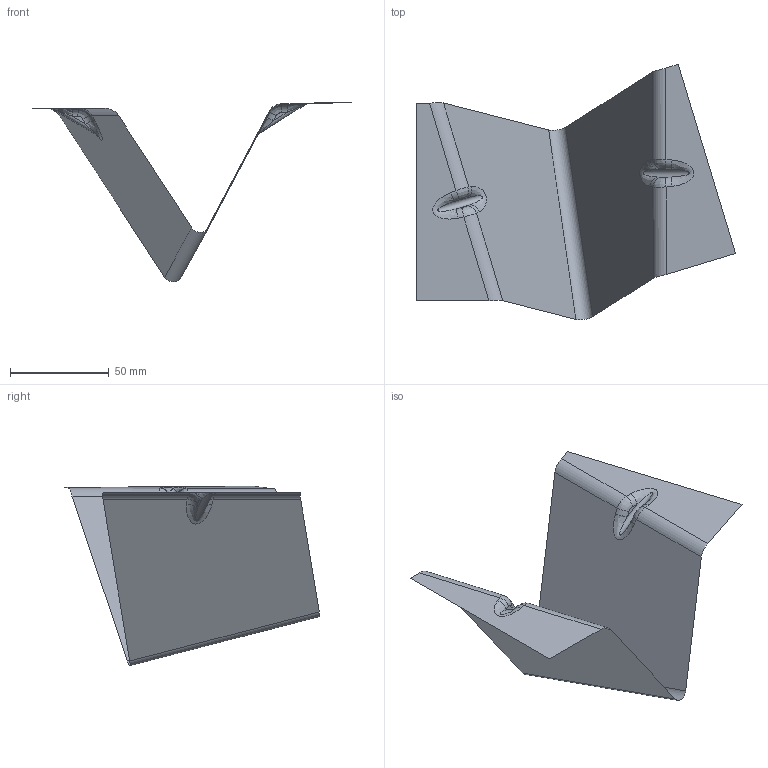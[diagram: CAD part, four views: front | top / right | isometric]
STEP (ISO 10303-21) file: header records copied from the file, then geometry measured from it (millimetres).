
FILE_DESCRIPTION(('CATIA V5 STEP Exchange'),'2;1');
FILE_NAME('C:\_Andres\UNIVERSIDAD\IQS\ASIGNATURAS\DAO\EXF\EXF-16172c\2inicio\Marinetto_Rohr_Ej03_v18.stp','2017-03-05T19:32:19+00:00',('none'),('none'),'CATIA Version 5-6 Release 2014 SP1 HF18','CATIA V5 STEP AP203','none');
FILE_SCHEMA(('CONFIG_CONTROL_DESIGN'));
Length unit declared in the file: millimetre
Products named in the file (1): Marinetto_Rohr_Ej03_v18
Bounding box: 161.48 x 129.12 x 90.76 mm (x, y, z)
Surface area: 23926.2 mm2 (no closed solid volume)
Topology: 0 solids, 1 shells, 31 faces, 78 edges, 48 vertices
Faces by surface type: cylinder 15, plane 8, bspline 8
Entity records: 2443 total; most frequent: CARTESIAN_POINT 1770, ORIENTED_EDGE 140, DIRECTION 90, EDGE_CURVE 78, VERTEX_POINT 48, VECTOR 40, LINE 40, ADVANCED_FACE 31
